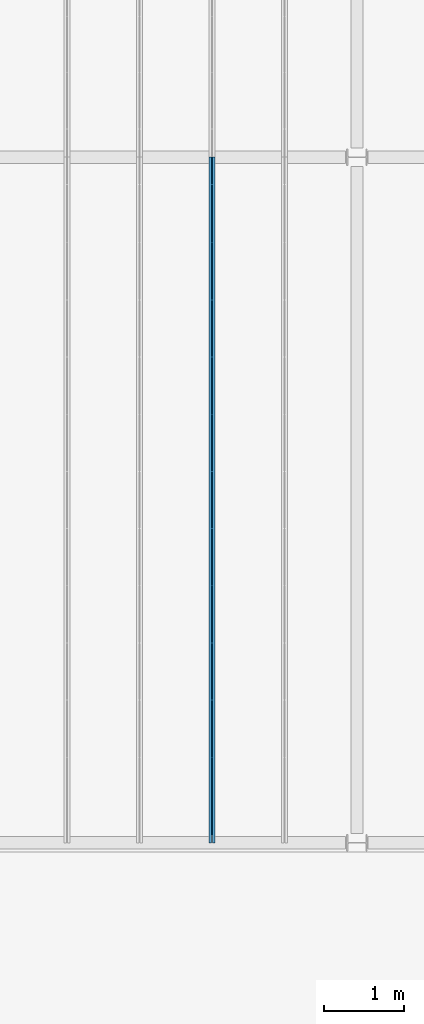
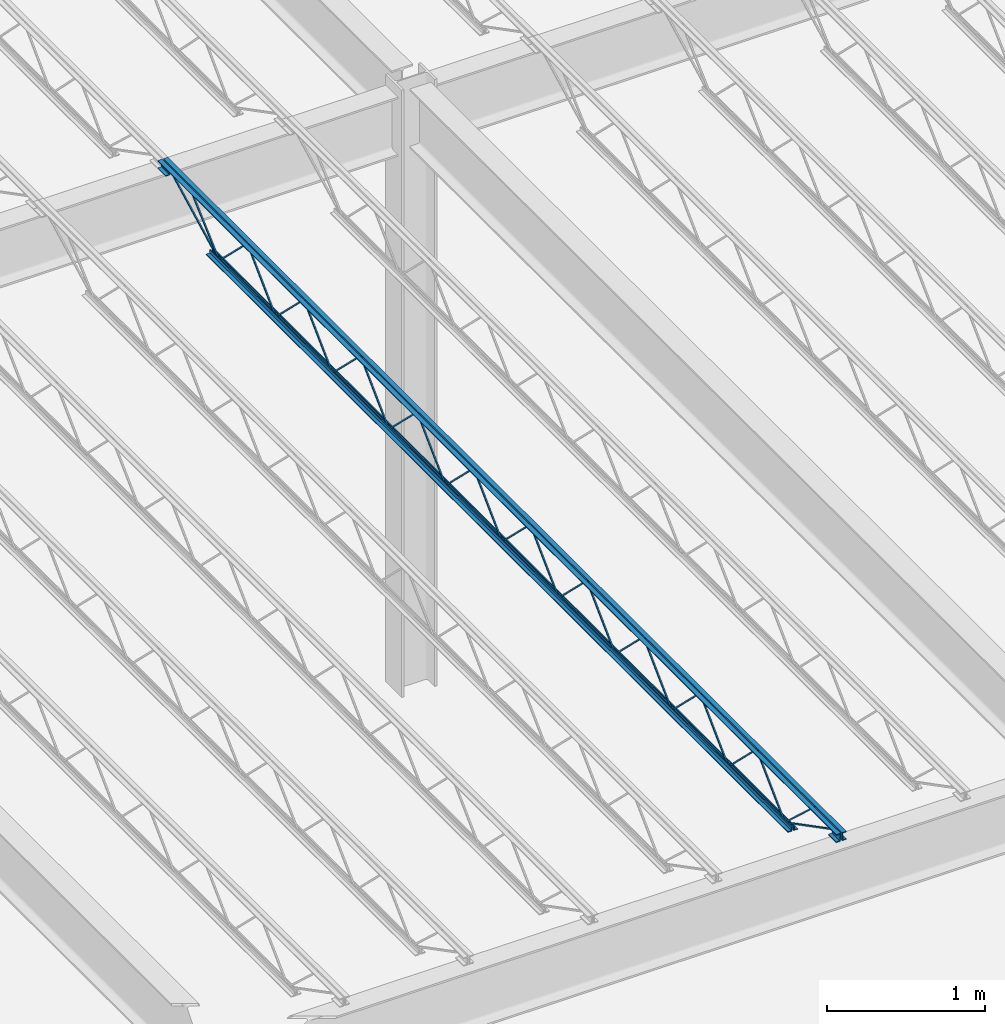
# One storey, part 24 of 119: 1 beam.
"""IFC2X3 building model written with IfcOpenShell, lengths in metres."""

from ifc_helpers import new_model, entity, si_unit, converted_unit, frame, origin, place, context, project, spatial, face_set, surface_model, element, save


model = new_model("IFC2X3")

# Units and contexts
model_context = context("Model", 3, precision=1e-09, world=origin())
plan_context = context("Plan", 3, precision=1e-09, world=origin())
ifc_project = project(units=[si_unit("LENGTHUNIT", "METRE"), si_unit("AREAUNIT", "SQUARE_METRE"), si_unit("VOLUMEUNIT", "CUBIC_METRE"), converted_unit("PLANEANGLEUNIT", "DEGREE", entity("IfcRatioMeasure", 0.01745329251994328), si_unit("PLANEANGLEUNIT", "RADIAN"), dimensions=[0, 0, 0, 0, 0, 0, 0]), si_unit("TIMEUNIT", "SECOND")], contexts=[model_context, plan_context])

# Site, building, storey
site_placement = place(None, origin())
site = spatial("IfcSite", under=ifc_project, at=site_placement, Name="Default", CompositionType="ELEMENT")
building_placement = place(site_placement, origin())
building = spatial("IfcBuilding", under=site, at=building_placement, CompositionType="ELEMENT")
storey_placement = place(building_placement, frame((0.0, 0.0, 4.570000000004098)))
storey = spatial("IfcBuildingStorey", under=building, at=storey_placement, Name="Second Floor", CompositionType="ELEMENT", Elevation=4.570000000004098)

# Beam
beam_placement = place(storey_placement, frame((-42.50817857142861, 10.04000000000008, 4.323999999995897), z_axis=(0.0, 0.0, 1.0), x_axis=(-1.0, 0.0, 0.0)))
element("IfcBeam", 1, at=beam_placement, inside=storey, Name="M_K-Series Bar Joist-Rod Web:14K1:14K1", ObjectType="M_K-Series Bar Joist-Rod Web:14K1", context=model_context, shape_type="SurfaceModel", body=[
    surface_model("IfcFaceBasedSurfaceModel", [(-0.03200000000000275, -2.141200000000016, 0.01110000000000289), (-0.04150000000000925, -2.141200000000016, 0.01110000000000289), (-0.04150000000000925, -2.141200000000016, 0.001600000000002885), (-0.03200000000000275, -2.141200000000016, 0.001600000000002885), (-0.04150000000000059, -2.139961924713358, 0.01110000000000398), (-0.03200000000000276, -2.139961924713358, 0.01110000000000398), (-0.04150000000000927, -2.136088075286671, 0.001600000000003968), (-0.04150000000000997, -1.785138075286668, 0.3449000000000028), (-0.04150000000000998, -1.782661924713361, 0.3449000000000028), (-0.0415000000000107, -1.431711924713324, 0.001600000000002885), (-0.0415000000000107, -1.426600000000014, 0.001600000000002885), (-0.0415000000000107, -1.426600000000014, 0.01110000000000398), (-0.0415000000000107, -1.427838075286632, 0.01110000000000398), (-0.04150000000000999, -1.77878807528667, 0.3544000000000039), (-0.04150000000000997, -1.789011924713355, 0.3544000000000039), (-0.03200000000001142, -2.136088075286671, 0.001600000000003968), (-0.03200000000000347, -1.785138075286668, 0.3449000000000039), (-0.03200000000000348, -1.782661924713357, 0.3449000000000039), (-0.03200000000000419, -1.431711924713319, 0.001600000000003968), (-0.0320000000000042, -1.426600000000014, 0.001600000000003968), (-0.0320000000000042, -1.426600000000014, 0.01110000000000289), (-0.03200000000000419, -1.427838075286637, 0.01110000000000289), (-0.03200000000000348, -1.778788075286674, 0.3544000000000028), (-0.03200000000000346, -1.789011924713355, 0.3544000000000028), (-0.03200000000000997, -2.855800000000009, 0.01110000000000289), (-0.04150000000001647, -2.855800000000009, 0.01110000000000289), (-0.04150000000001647, -2.855800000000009, 0.001600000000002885), (-0.03200000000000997, -2.855800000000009, 0.001600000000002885), (-0.04150000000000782, -2.854561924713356, 0.01110000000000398), (-0.03200000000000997, -2.854561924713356, 0.01110000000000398), (-0.04150000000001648, -2.850688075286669, 0.001600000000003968), (-0.04150000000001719, -2.499738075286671, 0.3449000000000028), (-0.0415000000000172, -2.497261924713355, 0.3449000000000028), (-0.04150000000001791, -2.146311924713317, 0.001600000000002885), (-0.04150000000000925, -2.141200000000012, 0.001600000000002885), (-0.04150000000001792, -2.141200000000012, 0.01110000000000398), (-0.04150000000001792, -2.14243807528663, 0.01110000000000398), (-0.0415000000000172, -2.493388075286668, 0.3544000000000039), (-0.04150000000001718, -2.503611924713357, 0.3544000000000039), (-0.03200000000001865, -2.850688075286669, 0.001600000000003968), (-0.03200000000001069, -2.499738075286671, 0.3449000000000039), (-0.03200000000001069, -2.497261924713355, 0.3449000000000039), (-0.03200000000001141, -2.146311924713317, 0.001600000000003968), (-0.03200000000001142, -2.141200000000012, 0.001600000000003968), (-0.03200000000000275, -2.141200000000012, 0.01110000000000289), (-0.03200000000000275, -2.14243807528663, 0.01110000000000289), (-0.0320000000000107, -2.493388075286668, 0.3544000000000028), (-0.03200000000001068, -2.503611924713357, 0.3544000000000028), (-0.03200000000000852, -3.570400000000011, 0.01110000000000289), (-0.04150000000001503, -3.570400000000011, 0.01110000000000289), (-0.04150000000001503, -3.570400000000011, 0.001600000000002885), (-0.03200000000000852, -3.570400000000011, 0.001600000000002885), (-0.04150000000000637, -3.569161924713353, 0.01110000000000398), (-0.03200000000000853, -3.569161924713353, 0.01110000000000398), (-0.04150000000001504, -3.565288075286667, 0.001600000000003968), (-0.04150000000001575, -3.214338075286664, 0.3449000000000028), (-0.04150000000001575, -3.211861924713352, 0.3449000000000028), (-0.04150000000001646, -2.860911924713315, 0.001600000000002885), (-0.04150000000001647, -2.855800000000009, 0.01110000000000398), (-0.04150000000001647, -2.857038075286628, 0.01110000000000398), (-0.04150000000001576, -3.207988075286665, 0.3544000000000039), (-0.04150000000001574, -3.218211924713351, 0.3544000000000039), (-0.0320000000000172, -3.565288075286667, 0.001600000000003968), (-0.03200000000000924, -3.214338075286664, 0.3449000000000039), (-0.03200000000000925, -3.211861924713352, 0.3449000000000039), (-0.03200000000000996, -2.860911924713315, 0.001600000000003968), (-0.03200000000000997, -2.855800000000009, 0.001600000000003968), (-0.03200000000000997, -2.857038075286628, 0.01110000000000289), (-0.03200000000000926, -3.207988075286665, 0.3544000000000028), (-0.03200000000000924, -3.218211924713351, 0.3544000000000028), (-0.03200000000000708, -4.285000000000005, 0.01110000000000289), (-0.04150000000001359, -4.285000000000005, 0.01110000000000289), (-0.04150000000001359, -4.285000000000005, 0.001600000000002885), (-0.03200000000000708, -4.285000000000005, 0.001600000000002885), (-0.04150000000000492, -4.283761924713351, 0.01110000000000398), (-0.03200000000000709, -4.283761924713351, 0.01110000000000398), (-0.0415000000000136, -4.27988807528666, 0.001600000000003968), (-0.0415000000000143, -3.928938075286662, 0.3449000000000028), (-0.0415000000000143, -3.92646192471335, 0.3449000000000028), (-0.04150000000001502, -3.575511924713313, 0.001600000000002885), (-0.04150000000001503, -3.570400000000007, 0.001600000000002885), (-0.04150000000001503, -3.570400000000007, 0.01110000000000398), (-0.04150000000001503, -3.571638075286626, 0.01110000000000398), (-0.04150000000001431, -3.922588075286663, 0.3544000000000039), (-0.0415000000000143, -3.932811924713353, 0.3544000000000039), (-0.03200000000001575, -4.279888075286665, 0.001600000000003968), (-0.0320000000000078, -3.928938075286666, 0.3449000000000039), (-0.03200000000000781, -3.92646192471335, 0.3449000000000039), (-0.03200000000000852, -3.575511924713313, 0.001600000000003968), (-0.03200000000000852, -3.570400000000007, 0.001600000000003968), (-0.03200000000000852, -3.570400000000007, 0.01110000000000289), (-0.03200000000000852, -3.571638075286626, 0.01110000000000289), (-0.03200000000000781, -3.922588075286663, 0.3544000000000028), (-0.03200000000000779, -3.932811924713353, 0.3544000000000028), (-0.03200000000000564, -4.999600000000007, 0.01110000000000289), (-0.04150000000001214, -4.999600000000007, 0.01110000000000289), (-0.04150000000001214, -4.999600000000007, 0.001600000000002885), (-0.03200000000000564, -4.999600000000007, 0.001600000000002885), (-0.04150000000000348, -4.998361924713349, 0.01110000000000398), (-0.03200000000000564, -4.998361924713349, 0.01110000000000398), (-0.04150000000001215, -4.994488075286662, 0.001600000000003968), (-0.04150000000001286, -4.643538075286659, 0.3449000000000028), (-0.04150000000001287, -4.641061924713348, 0.3449000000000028), (-0.04150000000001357, -4.290111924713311, 0.001600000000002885), (-0.04150000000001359, -4.285000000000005, 0.01110000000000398), (-0.04150000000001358, -4.286238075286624, 0.01110000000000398), (-0.04150000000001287, -4.637188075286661, 0.3544000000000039), (-0.04150000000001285, -4.647411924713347, 0.3544000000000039), (-0.03200000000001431, -4.994488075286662, 0.001600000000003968), (-0.03200000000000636, -4.643538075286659, 0.3449000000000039), (-0.03200000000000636, -4.641061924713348, 0.3449000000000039), (-0.03200000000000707, -4.290111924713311, 0.001600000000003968), (-0.03200000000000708, -4.285000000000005, 0.001600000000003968), (-0.03200000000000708, -4.286238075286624, 0.01110000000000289), (-0.03200000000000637, -4.637188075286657, 0.3544000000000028), (-0.03200000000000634, -4.647411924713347, 0.3544000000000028), (-0.03200000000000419, -5.714200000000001, 0.01110000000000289), (-0.0415000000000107, -5.714200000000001, 0.01110000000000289), (-0.0415000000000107, -5.714200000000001, 0.001600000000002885), (-0.03200000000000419, -5.714200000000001, 0.001600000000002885), (-0.04150000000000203, -5.712961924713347, 0.01110000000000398), (-0.03200000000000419, -5.712961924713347, 0.01110000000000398), (-0.0415000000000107, -5.709088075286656, 0.001600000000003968), (-0.04150000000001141, -5.358138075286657, 0.3449000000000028), (-0.04150000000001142, -5.355661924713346, 0.3449000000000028), (-0.04150000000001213, -5.004711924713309, 0.001600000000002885), (-0.04150000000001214, -4.999600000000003, 0.001600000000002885), (-0.04150000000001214, -4.999600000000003, 0.01110000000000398), (-0.04150000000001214, -5.000838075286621, 0.01110000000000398), (-0.04150000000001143, -5.351788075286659, 0.3544000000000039), (-0.0415000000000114, -5.362011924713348, 0.3544000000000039), (-0.03200000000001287, -5.70908807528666, 0.001600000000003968), (-0.03200000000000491, -5.358138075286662, 0.3449000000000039), (-0.03200000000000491, -5.355661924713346, 0.3449000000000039), (-0.03200000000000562, -5.004711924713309, 0.001600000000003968), (-0.03200000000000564, -4.999600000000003, 0.001600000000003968), (-0.03200000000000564, -4.999600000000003, 0.01110000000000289), (-0.03200000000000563, -5.000838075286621, 0.01110000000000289), (-0.03200000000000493, -5.351788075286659, 0.3544000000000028), (-0.03200000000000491, -5.362011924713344, 0.3544000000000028), (-0.03200000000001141, -6.428799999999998, 0.01110000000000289), (-0.04150000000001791, -6.428799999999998, 0.01110000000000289), (-0.04150000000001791, -6.428799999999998, 0.001600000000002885), (-0.03200000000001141, -6.428799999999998, 0.001600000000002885), (-0.04150000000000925, -6.427561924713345, 0.01110000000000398), (-0.03200000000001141, -6.427561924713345, 0.01110000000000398), (-0.04150000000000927, -6.423688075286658, 0.001600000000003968), (-0.04150000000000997, -6.072738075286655, 0.3449000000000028), (-0.04150000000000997, -6.070261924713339, 0.3449000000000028), (-0.04150000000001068, -5.719311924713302, 0.001600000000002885), (-0.04150000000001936, -5.714200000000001, 0.01110000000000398), (-0.04150000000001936, -5.715438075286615, 0.01110000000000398), (-0.04150000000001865, -6.066388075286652, 0.3544000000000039), (-0.04150000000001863, -6.076611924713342, 0.3544000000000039), (-0.03200000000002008, -6.423688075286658, 0.001600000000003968), (-0.03200000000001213, -6.072738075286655, 0.3449000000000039), (-0.03200000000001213, -6.070261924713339, 0.3449000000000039), (-0.03200000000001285, -5.719311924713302, 0.001600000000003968), (-0.03200000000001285, -5.714200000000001, 0.001600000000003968), (-0.03200000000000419, -5.715438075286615, 0.01110000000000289), (-0.03200000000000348, -6.066388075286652, 0.3544000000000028), (-0.03200000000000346, -6.076611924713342, 0.3544000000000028), (-0.03200000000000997, -7.143399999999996, 0.01110000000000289), (-0.04150000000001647, -7.143399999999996, 0.01110000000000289), (-0.04150000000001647, -7.143399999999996, 0.001600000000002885), (-0.03200000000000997, -7.143399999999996, 0.001600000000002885), (-0.04150000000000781, -7.142161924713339, 0.01110000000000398), (-0.03200000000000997, -7.142161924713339, 0.01110000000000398), (-0.04150000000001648, -7.138288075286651, 0.001600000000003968), (-0.04150000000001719, -6.787338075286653, 0.3449000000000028), (-0.04150000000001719, -6.784861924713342, 0.3449000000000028), (-0.0415000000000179, -6.433911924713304, 0.001600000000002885), (-0.04150000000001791, -6.428799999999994, 0.001600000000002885), (-0.04150000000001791, -6.428799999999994, 0.01110000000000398), (-0.04150000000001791, -6.430038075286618, 0.01110000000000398), (-0.0415000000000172, -6.780988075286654, 0.3544000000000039), (-0.04150000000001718, -6.79121192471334, 0.3544000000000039), (-0.03200000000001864, -7.138288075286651, 0.001600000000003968), (-0.03200000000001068, -6.787338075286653, 0.3449000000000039), (-0.03200000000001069, -6.784861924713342, 0.3449000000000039), (-0.03200000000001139, -6.433911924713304, 0.001600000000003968), (-0.03200000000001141, -6.428799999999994, 0.001600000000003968), (-0.03200000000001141, -6.428799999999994, 0.01110000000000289), (-0.03200000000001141, -6.430038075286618, 0.01110000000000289), (-0.03200000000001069, -6.780988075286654, 0.3544000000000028), (-0.03200000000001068, -6.79121192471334, 0.3544000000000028), (-0.0320000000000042, -1.426600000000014, 0.01109999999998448), (-0.0415000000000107, -1.426600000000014, 0.01109999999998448), (-0.0415000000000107, -1.426600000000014, 0.001599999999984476), (-0.0320000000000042, -1.426600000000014, 0.001599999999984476), (-0.04150000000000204, -1.42536192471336, 0.01109999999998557), (-0.0320000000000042, -1.42536192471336, 0.01109999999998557), (-0.04150000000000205, -1.421488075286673, 0.001599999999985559), (-0.04150000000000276, -1.070538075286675, 0.3448999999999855), (-0.04150000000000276, -1.068061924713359, 0.3448999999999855), (-0.04150000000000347, -0.7171119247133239, 0.001599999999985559), (-0.04150000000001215, -0.712000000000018, 0.001599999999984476), (-0.04150000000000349, -0.7120000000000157, 0.01109999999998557), (-0.04150000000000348, -0.7132380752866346, 0.01109999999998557), (-0.04150000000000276, -1.064188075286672, 0.3543999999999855), (-0.04150000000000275, -1.074411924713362, 0.3543999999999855), (-0.03200000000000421, -1.421488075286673, 0.001599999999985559), (-0.03200000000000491, -1.070538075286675, 0.3448999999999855), (-0.03200000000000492, -1.068061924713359, 0.3448999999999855), (-0.03200000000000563, -0.7171119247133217, 0.001599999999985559), (-0.03200000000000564, -0.7120000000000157, 0.001599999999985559), (-0.03200000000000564, -0.712000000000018, 0.01109999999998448), (-0.03200000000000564, -0.7132380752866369, 0.01109999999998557), (-0.03200000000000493, -1.064188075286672, 0.3543999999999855), (-0.03200000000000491, -1.074411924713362, 0.3543999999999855), (-0.03200000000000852, -7.857999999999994, 0.01110000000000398), (-0.04150000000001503, -7.857999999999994, 0.01110000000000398), (-0.04150000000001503, -7.857999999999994, 0.001600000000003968), (-0.03200000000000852, -7.857999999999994, 0.001600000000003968), (-0.04150000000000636, -7.85676192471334, 0.01110000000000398), (-0.03200000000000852, -7.85676192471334, 0.01110000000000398), (-0.04150000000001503, -7.852888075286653, 0.001600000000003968), (-0.04150000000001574, -7.501938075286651, 0.3449000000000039), (-0.04150000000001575, -7.499461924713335, 0.3449000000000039), (-0.04150000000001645, -7.148511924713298, 0.001600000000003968), (-0.04150000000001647, -7.143399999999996, 0.001600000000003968), (-0.04150000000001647, -7.143399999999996, 0.01110000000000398), (-0.04150000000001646, -7.14463807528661, 0.01110000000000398), (-0.04150000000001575, -7.495588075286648, 0.3544000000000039), (-0.04150000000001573, -7.505811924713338, 0.3544000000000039), (-0.03200000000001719, -7.852888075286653, 0.001600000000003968), (-0.03200000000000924, -7.501938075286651, 0.3449000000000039), (-0.03200000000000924, -7.499461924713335, 0.3449000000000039), (-0.03200000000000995, -7.148511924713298, 0.001600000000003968), (-0.03200000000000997, -7.143399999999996, 0.001600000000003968), (-0.03200000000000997, -7.143399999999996, 0.01110000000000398), (-0.03200000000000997, -7.14463807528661, 0.01110000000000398), (-0.03200000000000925, -7.495588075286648, 0.3544000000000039), (-0.03200000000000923, -7.505811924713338, 0.3544000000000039), (-0.04150000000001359, 0.0, 0.3559999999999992), (-0.07350000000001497, 0.0, 0.3559999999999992), (-0.07350000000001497, 0.0, 0.3494999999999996), (-0.04800000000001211, 0.0, 0.3494999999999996), (-0.04800000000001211, 0.0, 0.3239999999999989), (-0.04150000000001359, 0.0, 0.3239999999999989), (-0.03200000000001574, 0.0, 0.3559999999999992), (-0.03200000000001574, 0.0, 0.3239999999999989), (-0.02550000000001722, 0.0, 0.3239999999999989), (-0.02550000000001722, 0.0, 0.3494999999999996), (0.0, 0.0, 0.3494999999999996), (0.0, 0.0, 0.3559999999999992), (-0.04150000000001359, -8.57, 0.3559999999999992), (-0.07350000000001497, -8.57, 0.3559999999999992), (-0.07350000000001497, -8.57, 0.3494999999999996), (-0.04800000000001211, -8.57, 0.3494999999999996), (-0.04800000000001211, -8.57, 0.3239999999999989), (-0.04150000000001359, -8.57, 0.3239999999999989), (-0.03200000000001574, -8.57, 0.3559999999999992), (-0.03200000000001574, -8.57, 0.3239999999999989), (-0.02550000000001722, -8.57, 0.3239999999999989), (-0.02550000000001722, -8.57, 0.3494999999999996), (0.0, -8.57, 0.3494999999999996), (0.0, -8.57, 0.3559999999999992), (-0.03200000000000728, -8.470000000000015, 0.2924999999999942), (0.0, -8.470000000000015, 0.2924999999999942), (0.0, -8.470000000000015, 0.2989999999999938), (-0.02550000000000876, -8.470000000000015, 0.2989999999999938), (-0.02550000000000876, -8.470000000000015, 0.3239999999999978), (-0.03200000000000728, -8.470000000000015, 0.3239999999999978), (-0.07350000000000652, -8.470000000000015, 0.2924999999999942), (-0.04150000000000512, -8.470000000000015, 0.2924999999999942), (-0.04150000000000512, -8.470000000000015, 0.3239999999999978), (-0.04800000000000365, -8.470000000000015, 0.3239999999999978), (-0.04800000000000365, -8.470000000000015, 0.2989999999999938), (-0.07350000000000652, -8.470000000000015, 0.2989999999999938), (-0.03200000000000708, -8.57, 0.2924999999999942), (0.0, -8.57, 0.2924999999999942), (0.0, -8.57, 0.2989999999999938), (-0.02550000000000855, -8.57, 0.2989999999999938), (-0.02550000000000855, -8.57, 0.3239999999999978), (-0.03200000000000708, -8.57, 0.3239999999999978), (-0.07350000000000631, -8.57, 0.2924999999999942), (-0.04150000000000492, -8.57, 0.2924999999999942), (-0.04150000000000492, -8.57, 0.3239999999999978), (-0.04800000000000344, -8.57, 0.3239999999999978), (-0.04800000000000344, -8.57, 0.2989999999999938), (-0.07350000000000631, -8.57, 0.2989999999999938), (-0.04150000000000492, 0.0, 0.2924999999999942), (-0.04150000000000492, 0.0, 0.3239999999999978), (-0.04800000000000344, 0.0, 0.3239999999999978), (-0.04800000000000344, 0.0, 0.2989999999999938), (-0.07350000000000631, 0.0, 0.2989999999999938), (-0.07350000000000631, 0.0, 0.2924999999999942), (-0.03200000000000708, 0.0, 0.2924999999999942), (0.0, 0.0, 0.2924999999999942), (0.0, 0.0, 0.2989999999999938), (-0.02550000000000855, 0.0, 0.2989999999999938), (-0.02550000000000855, 0.0, 0.3239999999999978), (-0.03200000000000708, 0.0, 0.3239999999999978), (-0.04150000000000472, -0.09999999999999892, 0.2924999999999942), (-0.04150000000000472, -0.09999999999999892, 0.3239999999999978), (-0.04800000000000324, -0.09999999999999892, 0.3239999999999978), (-0.04800000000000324, -0.09999999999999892, 0.2989999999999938), (-0.0735000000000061, -0.09999999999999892, 0.2989999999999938), (-0.0735000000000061, -0.09999999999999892, 0.2924999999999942), (-0.03200000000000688, -0.09999999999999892, 0.2924999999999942), (0.0, -0.09999999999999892, 0.2924999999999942), (0.0, -0.09999999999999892, 0.2989999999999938), (-0.02550000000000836, -0.09999999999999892, 0.2989999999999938), (-0.02550000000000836, -0.09999999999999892, 0.3239999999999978), (-0.03200000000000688, -0.09999999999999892, 0.3239999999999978), (-0.04150000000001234, -0.6119999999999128, 0.0), (-0.04150000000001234, -0.6119999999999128, 0.03199999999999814), (-0.04800000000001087, -0.6119999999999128, 0.03199999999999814), (-0.04800000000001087, -0.6119999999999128, 0.006499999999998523), (-0.07350000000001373, -0.6119999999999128, 0.006499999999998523), (-0.07350000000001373, -0.6119999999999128, 0.0), (-0.0320000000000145, -0.6119999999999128, 0.0), (0.0, -0.6119999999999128, 0.0), (0.0, -0.6119999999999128, 0.006499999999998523), (-0.02550000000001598, -0.6119999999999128, 0.006499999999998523), (-0.02550000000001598, -0.6119999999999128, 0.03199999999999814), (-0.0320000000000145, -0.6119999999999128, 0.03199999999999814), (-0.04150000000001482, -7.957999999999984, 0.0), (-0.04150000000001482, -7.957999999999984, 0.03199999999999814), (-0.04800000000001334, -7.957999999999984, 0.03199999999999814), (-0.04800000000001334, -7.957999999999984, 0.006499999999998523), (-0.0735000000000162, -7.957999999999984, 0.006499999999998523), (-0.0735000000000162, -7.957999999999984, 0.0), (-0.03200000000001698, -7.957999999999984, 0.0), (0.0, -7.957999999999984, 0.0), (0.0, -7.957999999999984, 0.006499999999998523), (-0.02550000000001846, -7.957999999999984, 0.006499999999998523), (-0.02550000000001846, -7.957999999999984, 0.03199999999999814), (-0.03200000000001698, -7.957999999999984, 0.03199999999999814), (-0.03200000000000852, -7.855811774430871, 0.01056594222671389), (-0.04150000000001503, -7.855811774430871, 0.01056594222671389), (-0.04150000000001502, -7.860188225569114, 0.002134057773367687), (-0.03200000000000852, -7.860188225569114, 0.00213405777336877), (-0.03200000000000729, -8.468840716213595, 0.3287499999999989), (-0.03200000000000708, -8.569999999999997, 0.3287499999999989), (-0.03200000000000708, -8.569999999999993, 0.3192499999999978), (-0.03200000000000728, -8.471159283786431, 0.3192499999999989), (-0.04150000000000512, -8.471159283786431, 0.3192499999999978), (-0.04150000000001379, -8.468840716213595, 0.3287499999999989), (-0.04150000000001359, -8.569999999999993, 0.3287499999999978), (-0.04150000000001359, -8.569999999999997, 0.3192499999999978), (-0.03200000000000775, -8.235257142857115, 0.3417000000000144), (-0.04150000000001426, -8.235257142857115, 0.3417000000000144), (-0.04150000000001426, -8.235257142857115, 0.3322000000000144), (-0.03200000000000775, -8.235257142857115, 0.3322000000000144), (-0.04150000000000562, -8.220724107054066, 0.3417000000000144), (-0.03200000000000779, -8.220724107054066, 0.3417000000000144), (-0.04150000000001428, -8.224390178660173, 0.3322000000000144), (-0.04150000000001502, -7.861190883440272, 0.002831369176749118), (-0.04150000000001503, -7.854809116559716, 0.009868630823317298), (-0.03200000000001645, -8.224390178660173, 0.3322000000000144), (-0.03200000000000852, -7.861190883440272, 0.002831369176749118), (-0.03200000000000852, -7.854809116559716, 0.009868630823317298), (-0.03200000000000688, -0.09781177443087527, 0.3197840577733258), (-0.03200000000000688, -0.1021882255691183, 0.328215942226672), (-0.04150000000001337, -0.1021882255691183, 0.328215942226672), (-0.04150000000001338, -0.09781177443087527, 0.3197840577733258), (-0.03200000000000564, -0.7098117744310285, 0.002134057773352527), (-0.03200000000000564, -0.7141882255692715, 0.01056594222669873), (-0.04150000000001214, -0.7141882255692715, 0.01056594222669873), (-0.04150000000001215, -0.7098117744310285, 0.002134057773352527), (-0.0320000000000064, -0.3369634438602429, 0.3461600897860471), (-0.03200000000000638, -0.3434079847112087, 0.3531399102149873), (-0.0415000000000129, -0.3434079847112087, 0.3531399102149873), (-0.0415000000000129, -0.3369634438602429, 0.3461600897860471), (-0.03200000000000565, -0.7087777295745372, 0.00286008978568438), (-0.03200000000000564, -0.7152222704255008, 0.009839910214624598), (-0.04150000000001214, -0.7152222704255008, 0.009839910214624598), (-0.04150000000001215, -0.7087777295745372, 0.00286008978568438)], [face_set([[[0, 1, 2, 3]], [[1, 4, 5, 0]], [[2, 6, 7, 8, 9, 10, 11, 12, 13, 14, 4, 1]], [[3, 2, 6, 15]], [[0, 3, 15, 16, 17, 18, 19, 20, 21, 22, 23, 5]], [[4, 5, 23, 14]], [[15, 16, 7, 6]], [[14, 13, 22, 23]], [[16, 7, 8, 17]], [[13, 12, 21, 22]], [[17, 8, 9, 18]], [[20, 11, 10, 19]], [[12, 11, 20, 21]], [[18, 9, 10, 19]]]), face_set([[[24, 25, 26, 27]], [[25, 28, 29, 24]], [[26, 30, 31, 32, 33, 34, 35, 36, 37, 38, 28, 25]], [[27, 26, 30, 39]], [[24, 27, 39, 40, 41, 42, 43, 44, 45, 46, 47, 29]], [[28, 29, 47, 38]], [[39, 40, 31, 30]], [[38, 37, 46, 47]], [[40, 31, 32, 41]], [[37, 36, 45, 46]], [[41, 32, 33, 42]], [[44, 35, 34, 43]], [[36, 35, 44, 45]], [[42, 33, 34, 43]]]), face_set([[[48, 49, 50, 51]], [[49, 52, 53, 48]], [[50, 54, 55, 56, 57, 26, 58, 59, 60, 61, 52, 49]], [[51, 50, 54, 62]], [[48, 51, 62, 63, 64, 65, 66, 24, 67, 68, 69, 53]], [[52, 53, 69, 61]], [[62, 63, 55, 54]], [[61, 60, 68, 69]], [[63, 55, 56, 64]], [[60, 59, 67, 68]], [[64, 56, 57, 65]], [[24, 58, 26, 66]], [[59, 58, 24, 67]], [[65, 57, 26, 66]]]), face_set([[[70, 71, 72, 73]], [[71, 74, 75, 70]], [[72, 76, 77, 78, 79, 80, 81, 82, 83, 84, 74, 71]], [[73, 72, 76, 85]], [[70, 73, 85, 86, 87, 88, 89, 90, 91, 92, 93, 75]], [[74, 75, 93, 84]], [[85, 86, 77, 76]], [[84, 83, 92, 93]], [[86, 77, 78, 87]], [[83, 82, 91, 92]], [[87, 78, 79, 88]], [[90, 81, 80, 89]], [[82, 81, 90, 91]], [[88, 79, 80, 89]]]), face_set([[[94, 95, 96, 97]], [[95, 98, 99, 94]], [[96, 100, 101, 102, 103, 72, 104, 105, 106, 107, 98, 95]], [[97, 96, 100, 108]], [[94, 97, 108, 109, 110, 111, 112, 70, 113, 114, 115, 99]], [[98, 99, 115, 107]], [[108, 109, 101, 100]], [[107, 106, 114, 115]], [[109, 101, 102, 110]], [[106, 105, 113, 114]], [[110, 102, 103, 111]], [[70, 104, 72, 112]], [[105, 104, 70, 113]], [[111, 103, 72, 112]]]), face_set([[[116, 117, 118, 119]], [[117, 120, 121, 116]], [[118, 122, 123, 124, 125, 126, 127, 128, 129, 130, 120, 117]], [[119, 118, 122, 131]], [[116, 119, 131, 132, 133, 134, 135, 136, 137, 138, 139, 121]], [[120, 121, 139, 130]], [[131, 132, 123, 122]], [[130, 129, 138, 139]], [[132, 123, 124, 133]], [[129, 128, 137, 138]], [[133, 124, 125, 134]], [[136, 127, 126, 135]], [[128, 127, 136, 137]], [[134, 125, 126, 135]]]), face_set([[[140, 141, 142, 143]], [[141, 144, 145, 140]], [[142, 146, 147, 148, 149, 118, 150, 151, 152, 153, 144, 141]], [[143, 142, 146, 154]], [[140, 143, 154, 155, 156, 157, 158, 116, 159, 160, 161, 145]], [[144, 145, 161, 153]], [[154, 155, 147, 146]], [[153, 152, 160, 161]], [[155, 147, 148, 156]], [[152, 151, 159, 160]], [[156, 148, 149, 157]], [[116, 150, 118, 158]], [[151, 150, 116, 159]], [[157, 149, 118, 158]]]), face_set([[[162, 163, 164, 165]], [[163, 166, 167, 162]], [[164, 168, 169, 170, 171, 172, 173, 174, 175, 176, 166, 163]], [[165, 164, 168, 177]], [[162, 165, 177, 178, 179, 180, 181, 182, 183, 184, 185, 167]], [[166, 167, 185, 176]], [[177, 178, 169, 168]], [[176, 175, 184, 185]], [[178, 169, 170, 179]], [[175, 174, 183, 184]], [[179, 170, 171, 180]], [[182, 173, 172, 181]], [[174, 173, 182, 183]], [[180, 171, 172, 181]]]), face_set([[[186, 187, 188, 189]], [[187, 190, 191, 186]], [[188, 192, 193, 194, 195, 196, 197, 198, 199, 200, 190, 187]], [[189, 188, 192, 201]], [[186, 189, 201, 202, 203, 204, 205, 206, 207, 208, 209, 191]], [[190, 191, 209, 200]], [[201, 202, 193, 192]], [[200, 199, 208, 209]], [[202, 193, 194, 203]], [[199, 198, 207, 208]], [[203, 194, 195, 204]], [[206, 197, 196, 205]], [[198, 197, 206, 207]], [[204, 195, 196, 205]]]), face_set([[[210, 211, 212, 213]], [[211, 214, 215, 210]], [[212, 216, 217, 218, 219, 220, 221, 222, 223, 224, 214, 211]], [[213, 212, 216, 225]], [[210, 213, 225, 226, 227, 228, 229, 230, 231, 232, 233, 215]], [[214, 215, 233, 224]], [[225, 226, 217, 216]], [[224, 223, 232, 233]], [[226, 217, 218, 227]], [[223, 222, 231, 232]], [[227, 218, 219, 228]], [[230, 221, 220, 229]], [[222, 221, 230, 231]], [[228, 219, 220, 229]]]), face_set([[[234, 235, 236, 237, 238, 239]], [[240, 241, 242, 243, 244, 245]], [[246, 247, 248, 249, 250, 251]], [[252, 253, 254, 255, 256, 257]], [[239, 234, 246, 251]], [[238, 239, 251, 250]], [[237, 249, 250, 238]], [[236, 237, 249, 248]], [[235, 247, 248, 236]], [[234, 246, 247, 235]], [[245, 257, 252, 240]], [[244, 245, 257, 256]], [[243, 244, 256, 255]], [[242, 243, 255, 254]], [[241, 242, 254, 253]], [[240, 252, 253, 241]]]), face_set([[[258, 259, 260, 261, 262, 263]], [[264, 265, 266, 267, 268, 269]], [[270, 271, 272, 273, 274, 275]], [[276, 277, 278, 279, 280, 281]], [[263, 275, 270, 258]], [[262, 274, 275, 263]], [[261, 262, 274, 273]], [[260, 272, 273, 261]], [[259, 260, 272, 271]], [[258, 259, 271, 270]], [[269, 281, 276, 264]], [[268, 280, 281, 269]], [[267, 279, 280, 268]], [[266, 278, 279, 267]], [[265, 266, 278, 277]], [[264, 265, 277, 276]]]), face_set([[[282, 283, 284, 285, 286, 287]], [[288, 289, 290, 291, 292, 293]], [[294, 295, 296, 297, 298, 299]], [[300, 301, 302, 303, 304, 305]], [[287, 282, 294, 299]], [[286, 298, 299, 287]], [[285, 297, 298, 286]], [[284, 296, 297, 285]], [[283, 295, 296, 284]], [[282, 283, 295, 294]], [[293, 305, 300, 288]], [[292, 304, 305, 293]], [[291, 292, 304, 303]], [[290, 302, 303, 291]], [[289, 290, 302, 301]], [[288, 289, 301, 300]]]), face_set([[[306, 307, 308, 309, 310, 311]], [[312, 313, 314, 315, 316, 317]], [[318, 319, 320, 321, 322, 323]], [[324, 325, 326, 327, 328, 329]], [[311, 306, 318, 323]], [[310, 322, 323, 311]], [[309, 321, 322, 310]], [[308, 320, 321, 309]], [[307, 319, 320, 308]], [[306, 307, 319, 318]], [[317, 329, 324, 312]], [[316, 328, 329, 317]], [[315, 316, 328, 327]], [[314, 326, 327, 315]], [[313, 314, 326, 325]], [[312, 313, 325, 324]]]), face_set([[[330, 331, 332, 333]], [[333, 330, 334, 335, 336, 337]], [[332, 333, 337, 338]], [[331, 339, 340, 341, 338, 332]], [[330, 334, 339, 331]], [[335, 340, 341, 336]], [[338, 337, 336, 341]], [[334, 335, 340, 339]]]), face_set([[[342, 343, 344, 345]], [[343, 346, 347, 342]], [[344, 348, 349, 350, 346, 343]], [[345, 344, 348, 351]], [[342, 345, 351, 352, 353, 347]], [[353, 350, 349, 352]], [[346, 350, 353, 347]], [[351, 348, 349, 352]]]), face_set([[[354, 355, 356, 357]], [[358, 359, 360, 361]], [[357, 354, 358, 361]], [[356, 360, 361, 357]], [[355, 359, 360, 356]], [[354, 355, 359, 358]]]), face_set([[[362, 363, 364, 365]], [[366, 367, 368, 369]], [[365, 369, 366, 362]], [[364, 368, 369, 365]], [[363, 364, 368, 367]], [[362, 363, 367, 366]]])]),
])

save(model, "model.ifc")
